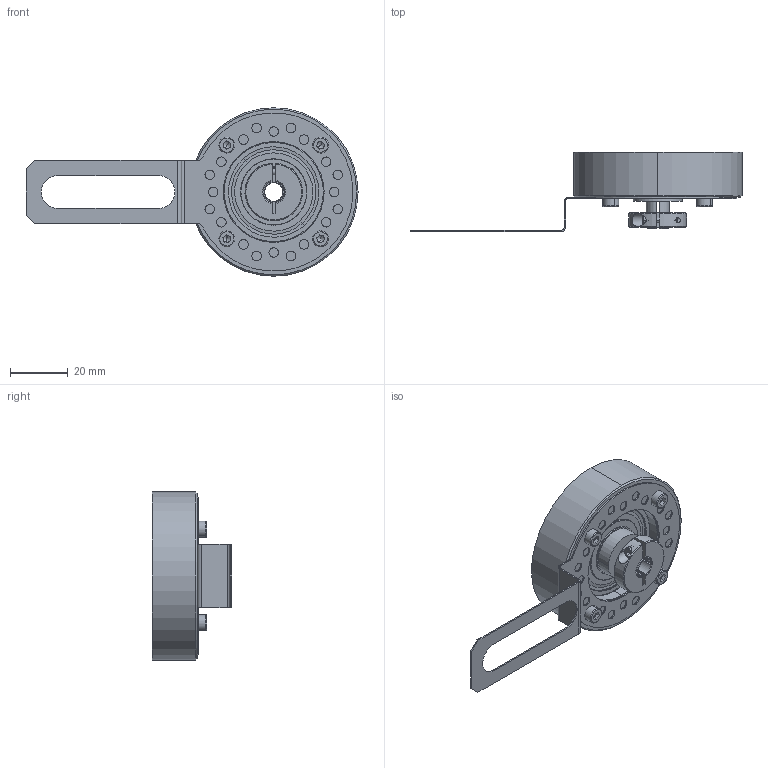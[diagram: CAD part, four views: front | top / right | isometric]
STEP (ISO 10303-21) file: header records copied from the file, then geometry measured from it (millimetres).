
FILE_DESCRIPTION (( 'STEP AP214' ), '1' );
FILE_NAME ('drawing-ucd-hry0-q5b-n.STEP', '2017-02-20T09:48:48', ( '' ), ( '' ), 'SwSTEP 2.0', 'SolidWorks 2015', '' );
FILE_SCHEMA (( 'AUTOMOTIVE_DESIGN' ));
Length unit declared in the file: millimetre
Products named in the file (1): drawing-ucd-hry0-q5b-n
Bounding box: 115.25 x 27.5 x 58.5 mm (x, y, z)
Volume: 38275.1 mm3; surface area: 25190.6 mm2
Topology: 26 solids, 26 shells, 458 faces, 1080 edges, 631 vertices
Faces by surface type: cylinder 159, plane 142, cone 81, bspline 56, torus 20
Entity records: 19438 total; most frequent: CARTESIAN_POINT 3722, DIRECTION 2297, ORIENTED_EDGE 2032, EDGE_CURVE 1016, AXIS2_PLACEMENT_3D 928, VERTEX_POINT 631, EDGE_LOOP 553, CIRCLE 525
